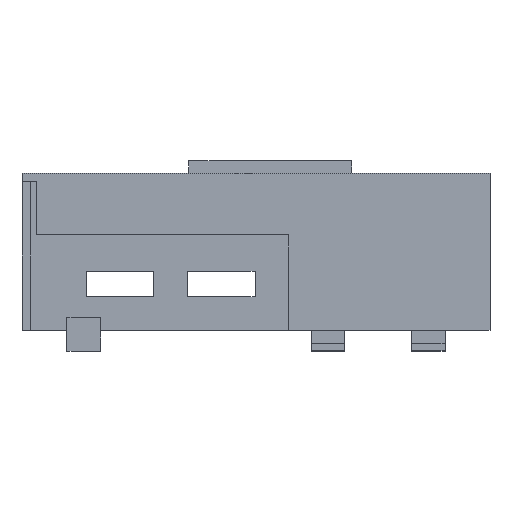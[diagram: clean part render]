
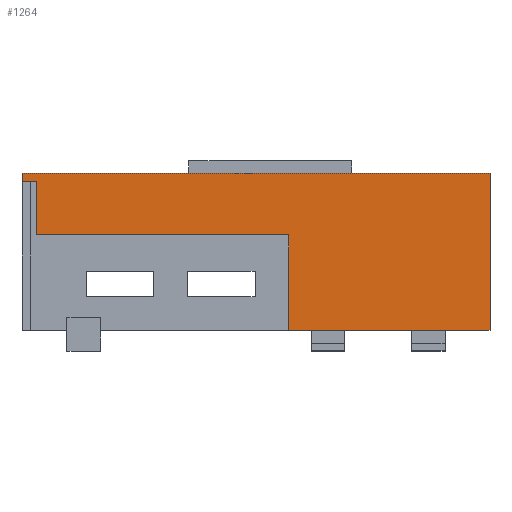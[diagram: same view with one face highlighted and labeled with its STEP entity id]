
A CAD part, front view. The second image highlights one B-rep face of the part: STEP entity #1264.
In plain terms, the highlighted planar face has unit normal (0, -1, 0).
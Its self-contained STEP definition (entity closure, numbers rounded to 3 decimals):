
#22 = VERTEX_POINT('',#23);
#23 = CARTESIAN_POINT('',(-63.5,-103.,201.));
#32 = PLANE('',#33);
#33 = AXIS2_PLACEMENT_3D('',#34,#35,#36);
#34 = CARTESIAN_POINT('',(-63.5,0.,187.));
#35 = DIRECTION('',(-1.,-0.,-0.));
#36 = DIRECTION('',(0.,0.,-1.));
#44 = PLANE('',#45);
#45 = AXIS2_PLACEMENT_3D('',#46,#47,#48);
#46 = CARTESIAN_POINT('',(-63.5,-103.,201.));
#47 = DIRECTION('',(0.,0.,1.));
#48 = DIRECTION('',(1.,0.,0.));
#139 = VERTEX_POINT('',#140);
#140 = CARTESIAN_POINT('',(-63.5,-103.,199.5));
#153 = PLANE('',#154);
#154 = AXIS2_PLACEMENT_3D('',#155,#156,#157);
#155 = CARTESIAN_POINT('',(-21.8,-0.775,199.5));
#156 = DIRECTION('',(-0.,-0.,-1.));
#157 = DIRECTION('',(-1.,0.,0.));
#165 = EDGE_CURVE('',#139,#22,#166,.T.);
#166 = SURFACE_CURVE('',#167,(#171,#178),.PCURVE_S1.);
#167 = LINE('',#168,#169);
#168 = CARTESIAN_POINT('',(-63.5,-103.,173.));
#169 = VECTOR('',#170,1.);
#170 = DIRECTION('',(0.,0.,1.));
#171 = PCURVE('',#32,#172);
#172 = DEFINITIONAL_REPRESENTATION('',(#173),#177);
#173 = LINE('',#174,#175);
#174 = CARTESIAN_POINT('',(14.,103.));
#175 = VECTOR('',#176,1.);
#176 = DIRECTION('',(-1.,0.));
#177 = ( GEOMETRIC_REPRESENTATION_CONTEXT(2) 
PARAMETRIC_REPRESENTATION_CONTEXT() REPRESENTATION_CONTEXT('2D SPACE',''
  ) );
#178 = PCURVE('',#179,#184);
#179 = PLANE('',#180);
#180 = AXIS2_PLACEMENT_3D('',#181,#182,#183);
#181 = CARTESIAN_POINT('',(-21.825,-103.,187.));
#182 = DIRECTION('',(-0.,-1.,-0.));
#183 = DIRECTION('',(0.,0.,-1.));
#184 = DEFINITIONAL_REPRESENTATION('',(#185),#189);
#185 = LINE('',#186,#187);
#186 = CARTESIAN_POINT('',(14.,-41.675));
#187 = VECTOR('',#188,1.);
#188 = DIRECTION('',(-1.,0.));
#189 = ( GEOMETRIC_REPRESENTATION_CONTEXT(2) 
PARAMETRIC_REPRESENTATION_CONTEXT() REPRESENTATION_CONTEXT('2D SPACE',''
  ) );
#195 = EDGE_CURVE('',#22,#196,#198,.T.);
#196 = VERTEX_POINT('',#197);
#197 = CARTESIAN_POINT('',(19.85,-103.,201.));
#198 = SURFACE_CURVE('',#199,(#203,#210),.PCURVE_S1.);
#199 = LINE('',#200,#201);
#200 = CARTESIAN_POINT('',(-63.5,-103.,201.));
#201 = VECTOR('',#202,1.);
#202 = DIRECTION('',(1.,0.,0.));
#203 = PCURVE('',#44,#204);
#204 = DEFINITIONAL_REPRESENTATION('',(#205),#209);
#205 = LINE('',#206,#207);
#206 = CARTESIAN_POINT('',(0.,0.));
#207 = VECTOR('',#208,1.);
#208 = DIRECTION('',(1.,0.));
#209 = ( GEOMETRIC_REPRESENTATION_CONTEXT(2) 
PARAMETRIC_REPRESENTATION_CONTEXT() REPRESENTATION_CONTEXT('2D SPACE',''
  ) );
#210 = PCURVE('',#179,#211);
#211 = DEFINITIONAL_REPRESENTATION('',(#212),#216);
#212 = LINE('',#213,#214);
#213 = CARTESIAN_POINT('',(-14.,-41.675));
#214 = VECTOR('',#215,1.);
#215 = DIRECTION('',(0.,1.));
#216 = ( GEOMETRIC_REPRESENTATION_CONTEXT(2) 
PARAMETRIC_REPRESENTATION_CONTEXT() REPRESENTATION_CONTEXT('2D SPACE',''
  ) );
#234 = PLANE('',#235);
#235 = AXIS2_PLACEMENT_3D('',#236,#237,#238);
#236 = CARTESIAN_POINT('',(19.85,0.,197.249));
#237 = DIRECTION('',(1.,0.,0.));
#238 = DIRECTION('',(0.,0.,1.));
#1264 = ADVANCED_FACE('',(#1265),#179,.T.);
#1265 = FACE_BOUND('',#1266,.T.);
#1266 = EDGE_LOOP('',(#1267,#1268,#1290,#1316,#1342,#1368,#1396,#1417));
#1267 = ORIENTED_EDGE('',*,*,#165,.F.);
#1268 = ORIENTED_EDGE('',*,*,#1269,.F.);
#1269 = EDGE_CURVE('',#1270,#139,#1272,.T.);
#1270 = VERTEX_POINT('',#1271);
#1271 = CARTESIAN_POINT('',(-61.,-103.,199.5));
#1272 = SURFACE_CURVE('',#1273,(#1277,#1283),.PCURVE_S1.);
#1273 = LINE('',#1274,#1275);
#1274 = CARTESIAN_POINT('',(-43.413,-103.,199.5));
#1275 = VECTOR('',#1276,1.);
#1276 = DIRECTION('',(-1.,0.,0.));
#1277 = PCURVE('',#179,#1278);
#1278 = DEFINITIONAL_REPRESENTATION('',(#1279),#1282);
#1279 = B_SPLINE_CURVE_WITH_KNOTS('',1,(#1280,#1281),.UNSPECIFIED.,.F.,
  .F.,(2,2),(17.588,20.088),.PIECEWISE_BEZIER_KNOTS.);
#1280 = CARTESIAN_POINT('',(-12.5,-39.175));
#1281 = CARTESIAN_POINT('',(-12.5,-41.675));
#1282 = ( GEOMETRIC_REPRESENTATION_CONTEXT(2) 
PARAMETRIC_REPRESENTATION_CONTEXT() REPRESENTATION_CONTEXT('2D SPACE',''
  ) );
#1283 = PCURVE('',#153,#1284);
#1284 = DEFINITIONAL_REPRESENTATION('',(#1285),#1289);
#1285 = LINE('',#1286,#1287);
#1286 = CARTESIAN_POINT('',(21.613,-102.225));
#1287 = VECTOR('',#1288,1.);
#1288 = DIRECTION('',(1.,0.));
#1289 = ( GEOMETRIC_REPRESENTATION_CONTEXT(2) 
PARAMETRIC_REPRESENTATION_CONTEXT() REPRESENTATION_CONTEXT('2D SPACE',''
  ) );
#1290 = ORIENTED_EDGE('',*,*,#1291,.F.);
#1291 = EDGE_CURVE('',#1292,#1270,#1294,.T.);
#1292 = VERTEX_POINT('',#1293);
#1293 = CARTESIAN_POINT('',(-61.,-103.,190.));
#1294 = SURFACE_CURVE('',#1295,(#1299,#1305),.PCURVE_S1.);
#1295 = LINE('',#1296,#1297);
#1296 = CARTESIAN_POINT('',(-61.,-103.,179.94));
#1297 = VECTOR('',#1298,1.);
#1298 = DIRECTION('',(0.,0.,1.));
#1299 = PCURVE('',#179,#1300);
#1300 = DEFINITIONAL_REPRESENTATION('',(#1301),#1304);
#1301 = B_SPLINE_CURVE_WITH_KNOTS('',1,(#1302,#1303),.UNSPECIFIED.,.F.,
  .F.,(2,2),(-6.94,19.56),.PIECEWISE_BEZIER_KNOTS.);
#1302 = CARTESIAN_POINT('',(14.,-39.175));
#1303 = CARTESIAN_POINT('',(-12.5,-39.175));
#1304 = ( GEOMETRIC_REPRESENTATION_CONTEXT(2) 
PARAMETRIC_REPRESENTATION_CONTEXT() REPRESENTATION_CONTEXT('2D SPACE',''
  ) );
#1305 = PCURVE('',#1306,#1311);
#1306 = PLANE('',#1307);
#1307 = AXIS2_PLACEMENT_3D('',#1308,#1309,#1310);
#1308 = CARTESIAN_POINT('',(-61.,-106.,172.88));
#1309 = DIRECTION('',(1.,0.,0.));
#1310 = DIRECTION('',(0.,0.,1.));
#1311 = DEFINITIONAL_REPRESENTATION('',(#1312),#1315);
#1312 = B_SPLINE_CURVE_WITH_KNOTS('',1,(#1313,#1314),.UNSPECIFIED.,.F.,
  .F.,(2,2),(-6.94,19.56),.PIECEWISE_BEZIER_KNOTS.);
#1313 = CARTESIAN_POINT('',(0.12,-3.));
#1314 = CARTESIAN_POINT('',(26.62,-3.));
#1315 = ( GEOMETRIC_REPRESENTATION_CONTEXT(2) 
PARAMETRIC_REPRESENTATION_CONTEXT() REPRESENTATION_CONTEXT('2D SPACE',''
  ) );
#1316 = ORIENTED_EDGE('',*,*,#1317,.F.);
#1317 = EDGE_CURVE('',#1318,#1292,#1320,.T.);
#1318 = VERTEX_POINT('',#1319);
#1319 = CARTESIAN_POINT('',(-16.,-103.,190.));
#1320 = SURFACE_CURVE('',#1321,(#1325,#1331),.PCURVE_S1.);
#1321 = LINE('',#1322,#1323);
#1322 = CARTESIAN_POINT('',(-43.413,-103.,190.));
#1323 = VECTOR('',#1324,1.);
#1324 = DIRECTION('',(-1.,0.,0.));
#1325 = PCURVE('',#179,#1326);
#1326 = DEFINITIONAL_REPRESENTATION('',(#1327),#1330);
#1327 = B_SPLINE_CURVE_WITH_KNOTS('',1,(#1328,#1329),.UNSPECIFIED.,.F.,
  .F.,(2,2),(-27.413,20.088),.PIECEWISE_BEZIER_KNOTS.);
#1328 = CARTESIAN_POINT('',(-3.,5.825));
#1329 = CARTESIAN_POINT('',(-3.,-41.675));
#1330 = ( GEOMETRIC_REPRESENTATION_CONTEXT(2) 
PARAMETRIC_REPRESENTATION_CONTEXT() REPRESENTATION_CONTEXT('2D SPACE',''
  ) );
#1331 = PCURVE('',#1332,#1337);
#1332 = PLANE('',#1333);
#1333 = AXIS2_PLACEMENT_3D('',#1334,#1335,#1336);
#1334 = CARTESIAN_POINT('',(-65.,-104.,190.));
#1335 = DIRECTION('',(0.,0.,1.));
#1336 = DIRECTION('',(1.,0.,0.));
#1337 = DEFINITIONAL_REPRESENTATION('',(#1338),#1341);
#1338 = B_SPLINE_CURVE_WITH_KNOTS('',1,(#1339,#1340),.UNSPECIFIED.,.F.,
  .F.,(2,2),(-27.413,20.088),.PIECEWISE_BEZIER_KNOTS.);
#1339 = CARTESIAN_POINT('',(49.,1.));
#1340 = CARTESIAN_POINT('',(1.5,1.));
#1341 = ( GEOMETRIC_REPRESENTATION_CONTEXT(2) 
PARAMETRIC_REPRESENTATION_CONTEXT() REPRESENTATION_CONTEXT('2D SPACE',''
  ) );
#1342 = ORIENTED_EDGE('',*,*,#1343,.F.);
#1343 = EDGE_CURVE('',#1344,#1318,#1346,.T.);
#1344 = VERTEX_POINT('',#1345);
#1345 = CARTESIAN_POINT('',(-16.,-103.,173.));
#1346 = SURFACE_CURVE('',#1347,(#1351,#1357),.PCURVE_S1.);
#1347 = LINE('',#1348,#1349);
#1348 = CARTESIAN_POINT('',(-16.,-103.,179.9));
#1349 = VECTOR('',#1350,1.);
#1350 = DIRECTION('',(0.,0.,1.));
#1351 = PCURVE('',#179,#1352);
#1352 = DEFINITIONAL_REPRESENTATION('',(#1353),#1356);
#1353 = B_SPLINE_CURVE_WITH_KNOTS('',1,(#1354,#1355),.UNSPECIFIED.,.F.,
  .F.,(2,2),(-6.9,10.1),.PIECEWISE_BEZIER_KNOTS.);
#1354 = CARTESIAN_POINT('',(14.,5.825));
#1355 = CARTESIAN_POINT('',(-3.,5.825));
#1356 = ( GEOMETRIC_REPRESENTATION_CONTEXT(2) 
PARAMETRIC_REPRESENTATION_CONTEXT() REPRESENTATION_CONTEXT('2D SPACE',''
  ) );
#1357 = PCURVE('',#1358,#1363);
#1358 = PLANE('',#1359);
#1359 = AXIS2_PLACEMENT_3D('',#1360,#1361,#1362);
#1360 = CARTESIAN_POINT('',(-16.,-104.,172.8));
#1361 = DIRECTION('',(1.,0.,0.));
#1362 = DIRECTION('',(0.,0.,1.));
#1363 = DEFINITIONAL_REPRESENTATION('',(#1364),#1367);
#1364 = B_SPLINE_CURVE_WITH_KNOTS('',1,(#1365,#1366),.UNSPECIFIED.,.F.,
  .F.,(2,2),(-6.9,10.1),.PIECEWISE_BEZIER_KNOTS.);
#1365 = CARTESIAN_POINT('',(0.2,-1.));
#1366 = CARTESIAN_POINT('',(17.2,-1.));
#1367 = ( GEOMETRIC_REPRESENTATION_CONTEXT(2) 
PARAMETRIC_REPRESENTATION_CONTEXT() REPRESENTATION_CONTEXT('2D SPACE',''
  ) );
#1368 = ORIENTED_EDGE('',*,*,#1369,.T.);
#1369 = EDGE_CURVE('',#1344,#1370,#1372,.T.);
#1370 = VERTEX_POINT('',#1371);
#1371 = CARTESIAN_POINT('',(19.85,-103.,173.));
#1372 = SURFACE_CURVE('',#1373,(#1377,#1384),.PCURVE_S1.);
#1373 = LINE('',#1374,#1375);
#1374 = CARTESIAN_POINT('',(-63.5,-103.,173.));
#1375 = VECTOR('',#1376,1.);
#1376 = DIRECTION('',(1.,0.,0.));
#1377 = PCURVE('',#179,#1378);
#1378 = DEFINITIONAL_REPRESENTATION('',(#1379),#1383);
#1379 = LINE('',#1380,#1381);
#1380 = CARTESIAN_POINT('',(14.,-41.675));
#1381 = VECTOR('',#1382,1.);
#1382 = DIRECTION('',(0.,1.));
#1383 = ( GEOMETRIC_REPRESENTATION_CONTEXT(2) 
PARAMETRIC_REPRESENTATION_CONTEXT() REPRESENTATION_CONTEXT('2D SPACE',''
  ) );
#1384 = PCURVE('',#1385,#1390);
#1385 = PLANE('',#1386);
#1386 = AXIS2_PLACEMENT_3D('',#1387,#1388,#1389);
#1387 = CARTESIAN_POINT('',(-44.04,0.,173.));
#1388 = DIRECTION('',(-0.,-0.,-1.));
#1389 = DIRECTION('',(-1.,0.,0.));
#1390 = DEFINITIONAL_REPRESENTATION('',(#1391),#1395);
#1391 = LINE('',#1392,#1393);
#1392 = CARTESIAN_POINT('',(19.46,-103.));
#1393 = VECTOR('',#1394,1.);
#1394 = DIRECTION('',(-1.,0.));
#1395 = ( GEOMETRIC_REPRESENTATION_CONTEXT(2) 
PARAMETRIC_REPRESENTATION_CONTEXT() REPRESENTATION_CONTEXT('2D SPACE',''
  ) );
#1396 = ORIENTED_EDGE('',*,*,#1397,.T.);
#1397 = EDGE_CURVE('',#1370,#196,#1398,.T.);
#1398 = SURFACE_CURVE('',#1399,(#1403,#1410),.PCURVE_S1.);
#1399 = LINE('',#1400,#1401);
#1400 = CARTESIAN_POINT('',(19.85,-103.,173.));
#1401 = VECTOR('',#1402,1.);
#1402 = DIRECTION('',(0.,0.,1.));
#1403 = PCURVE('',#179,#1404);
#1404 = DEFINITIONAL_REPRESENTATION('',(#1405),#1409);
#1405 = LINE('',#1406,#1407);
#1406 = CARTESIAN_POINT('',(14.,41.675));
#1407 = VECTOR('',#1408,1.);
#1408 = DIRECTION('',(-1.,0.));
#1409 = ( GEOMETRIC_REPRESENTATION_CONTEXT(2) 
PARAMETRIC_REPRESENTATION_CONTEXT() REPRESENTATION_CONTEXT('2D SPACE',''
  ) );
#1410 = PCURVE('',#234,#1411);
#1411 = DEFINITIONAL_REPRESENTATION('',(#1412),#1416);
#1412 = LINE('',#1413,#1414);
#1413 = CARTESIAN_POINT('',(-24.249,103.));
#1414 = VECTOR('',#1415,1.);
#1415 = DIRECTION('',(1.,0.));
#1416 = ( GEOMETRIC_REPRESENTATION_CONTEXT(2) 
PARAMETRIC_REPRESENTATION_CONTEXT() REPRESENTATION_CONTEXT('2D SPACE',''
  ) );
#1417 = ORIENTED_EDGE('',*,*,#195,.F.);
